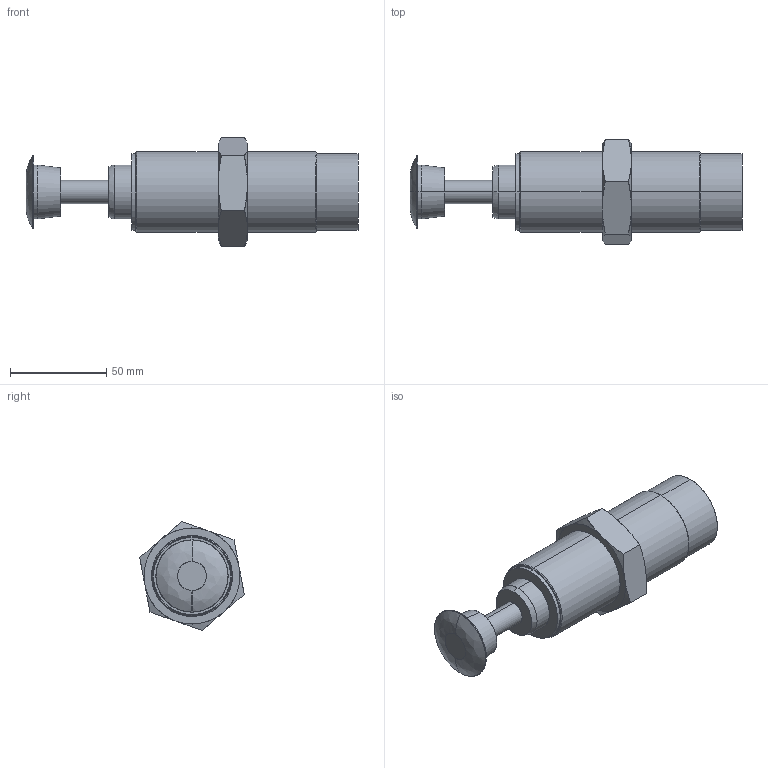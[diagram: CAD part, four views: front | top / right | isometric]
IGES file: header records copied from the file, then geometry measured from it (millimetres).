
Start section: SolidWorks IGES file using analytic representation for surfaces
Global section: file name: C:\Users\Sam Lin\Desktop\48\FSA-4225CD.IGS; native system: SolidWorks 2013; preprocessor: SolidWorks 2013; author: Sam Lin; date: 160317.152649; units: metre
Bounding box: 172.5 x 54.36 x 56.63 mm (x, y, z)
Surface area: 29122.9 mm2 (no closed solid volume)
Topology: 0 solids, 0 shells, 54 faces, 1256 edges, 1256 vertices
Faces by surface type: bspline 32, revolution 22
